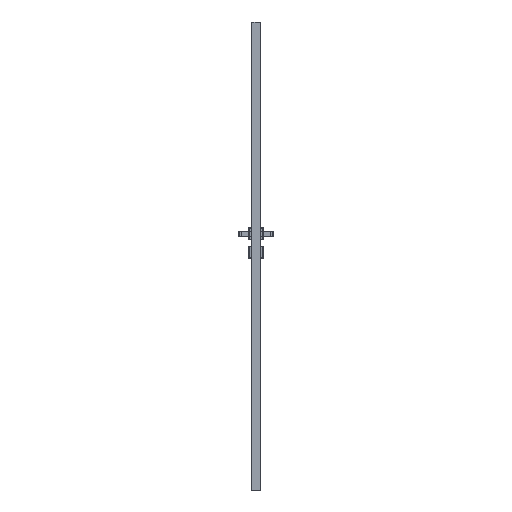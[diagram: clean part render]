
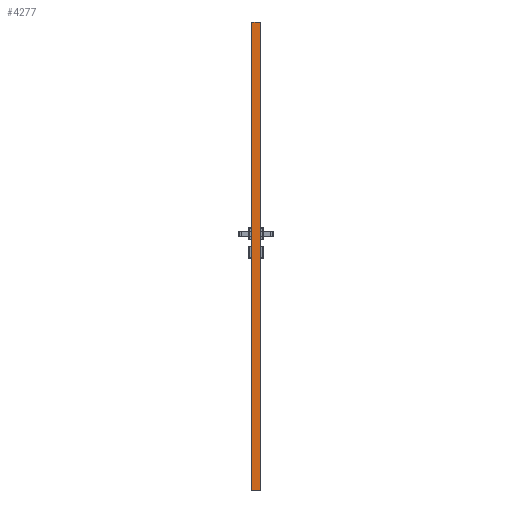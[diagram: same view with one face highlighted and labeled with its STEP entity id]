
A CAD part, left-side view. The second image highlights one B-rep face of the part: STEP entity #4277.
In plain terms, the highlighted planar face has unit normal (-1, 0, 0).
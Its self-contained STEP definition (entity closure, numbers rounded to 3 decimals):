
#4277=ADVANCED_FACE('',(#8249),#6363,.F.);
#6363=PLANE('',#46991);
#8249=FACE_OUTER_BOUND('',#10760,.T.);
#10760=EDGE_LOOP('',(#15902,#15903,#15904,#15905));
#15902=ORIENTED_EDGE('',*,*,#31831,.T.);
#15903=ORIENTED_EDGE('',*,*,#31832,.T.);
#15904=ORIENTED_EDGE('',*,*,#31833,.F.);
#15905=ORIENTED_EDGE('',*,*,#31834,.T.);
#26979=VERTEX_POINT('',#71815);
#26980=VERTEX_POINT('',#71816);
#26981=VERTEX_POINT('',#71818);
#26982=VERTEX_POINT('',#71820);
#31831=EDGE_CURVE('',#26979,#26980,#37604,.T.);
#31832=EDGE_CURVE('',#26980,#26981,#37605,.T.);
#31833=EDGE_CURVE('',#26982,#26981,#37606,.T.);
#31834=EDGE_CURVE('',#26982,#26979,#37607,.T.);
#37604=LINE('',#71814,#42184);
#37605=LINE('',#71817,#42185);
#37606=LINE('',#71819,#42186);
#37607=LINE('',#71821,#42187);
#42184=VECTOR('',#53177,1.);
#42185=VECTOR('',#53178,1.);
#42186=VECTOR('',#53179,1.);
#42187=VECTOR('',#53180,1.);
#46991=AXIS2_PLACEMENT_3D('',#71822,#53181,#53182);
#53177=DIRECTION('',(0.,0.,1.));
#53178=DIRECTION('',(0.,1.,0.));
#53179=DIRECTION('',(0.,0.,1.));
#53180=DIRECTION('',(0.,-1.,0.));
#53181=DIRECTION('',(1.,0.,0.));
#53182=DIRECTION('',(0.,1.,0.));
#71814=CARTESIAN_POINT('',(-309.,-38.35,0.));
#71815=CARTESIAN_POINT('',(-309.,-38.35,0.));
#71816=CARTESIAN_POINT('',(-309.,-38.35,2017.01));
#71817=CARTESIAN_POINT('',(-309.,0.,2017.01));
#71818=CARTESIAN_POINT('',(-309.,-1.65,2017.01));
#71819=CARTESIAN_POINT('',(-309.,-1.65,0.));
#71820=CARTESIAN_POINT('',(-309.,-1.65,0.));
#71821=CARTESIAN_POINT('',(-309.,-38.35,0.));
#71822=CARTESIAN_POINT('',(-309.,-38.35,0.));
